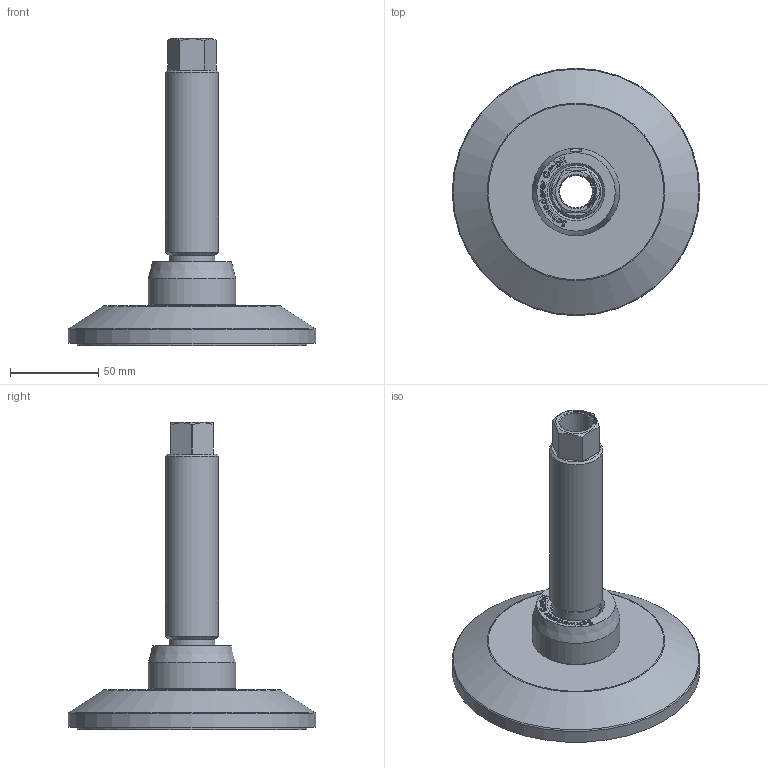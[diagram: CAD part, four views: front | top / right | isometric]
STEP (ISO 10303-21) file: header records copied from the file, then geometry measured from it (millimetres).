
FILE_DESCRIPTION(/* description */ ('JCM 130C - M30 - S6'),/* implementation_level */ '2;1');
FILE_NAME(/* name */ 'P:\CAD ab 2015\STP - Internetseite\JCMHD\JCMHD 130C - S - HSD145.stp',/* time_stamp */ '2021-10-01T09:31:08+02:00',/* author */ ('torsten'),/* organization */ ('Schwaderer GmbH Robert-Bosch-Str. 10 71563 Affalterbach'),/* preprocessor_version */ 'ST-DEVELOPER v18.1',/* originating_system */ 'Autodesk Inventor LT',/* authorisation */ '');
FILE_SCHEMA (('CONFIG_CONTROL_DESIGN'));
Length unit declared in the file: millimetre
Products named in the file (1): JCMHD 130C - S - HSD110
Bounding box: 140 x 140 x 173.9 mm (x, y, z)
Volume: 369069.1 mm3; surface area: 98425.1 mm2
Topology: 4 solids, 4 shells, 479 faces, 1300 edges, 869 vertices
Faces by surface type: plane 243, bspline 192, cylinder 23, cone 17, torus 3, sphere 1
Full cylindrical faces by diameter (mm): 5 x1, 18.5 x2, 25 x1, 26 x1, 26.5 x1, 27.5 x1, 28.5 x2, 30 x2, 31 x1, 49.5 x1, 130 x2, 140 x1
Entity records: 16563 total; most frequent: CARTESIAN_POINT 5618, ORIENTED_EDGE 2600, DIRECTION 1593, EDGE_CURVE 1300, VERTEX_POINT 869, LINE 781, VECTOR 781, EDGE_LOOP 529
